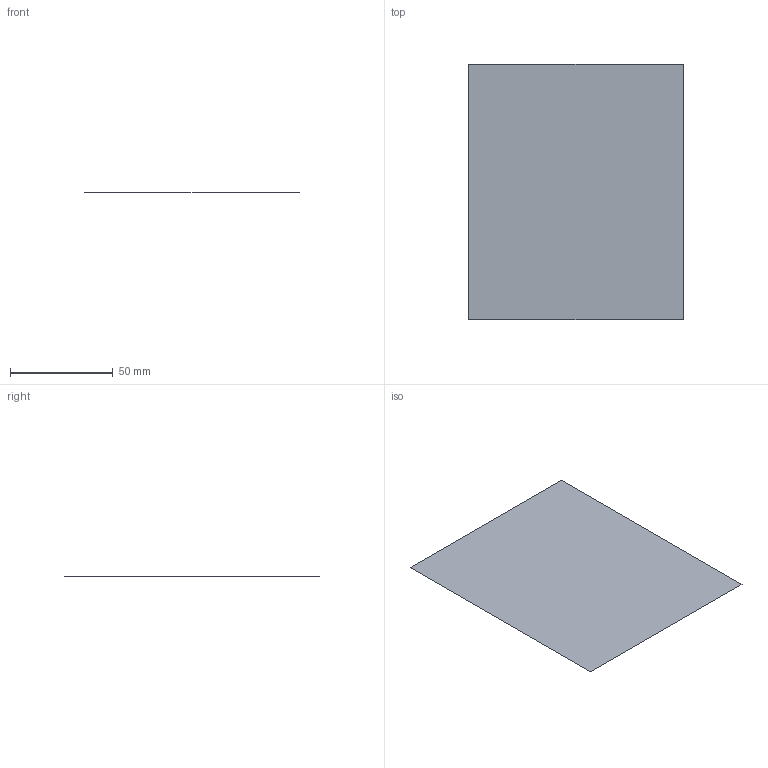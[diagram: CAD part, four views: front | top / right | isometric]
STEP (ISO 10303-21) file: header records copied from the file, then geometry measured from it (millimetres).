
FILE_DESCRIPTION(('CATIA V5 STEP Exchange'),'2;1');
FILE_NAME('C:\_Andres\UNIVERSIDAD\IQS\ASIGNATURAS\DAO\EXF\EXF-15161c\1original\Mas_Oliver_Ej06-calculo_v14.stp','2016-03-04T20:57:42+00:00',('none'),('none'),'CATIA Version 5 Release 20 SP 1 (IN-10)','CATIA V5 STEP AP203','none');
FILE_SCHEMA(('CONFIG_CONTROL_DESIGN'));
Length unit declared in the file: millimetre
Products named in the file (1): Mas_Oliver_Ej06-calculo_v14
Bounding box: 104 x 124 x 0 mm (x, y, z)
Surface area: 12896 mm2 (no closed solid volume)
Topology: 0 solids, 1 shells, 1 faces, 8 edges, 9 vertices
Faces by surface type: plane 1
Entity records: 130 total; most frequent: CARTESIAN_POINT 23, DIRECTION 12, VECTOR 8, LINE 8, COMPOSITE_CURVE_SEGMENT 4, ORIENTED_EDGE 4, CC_DESIGN_PERSON_AND_ORGANIZATION_ASSIGNMENT 4, PERSON_AND_ORGANIZATION_ROLE 4
